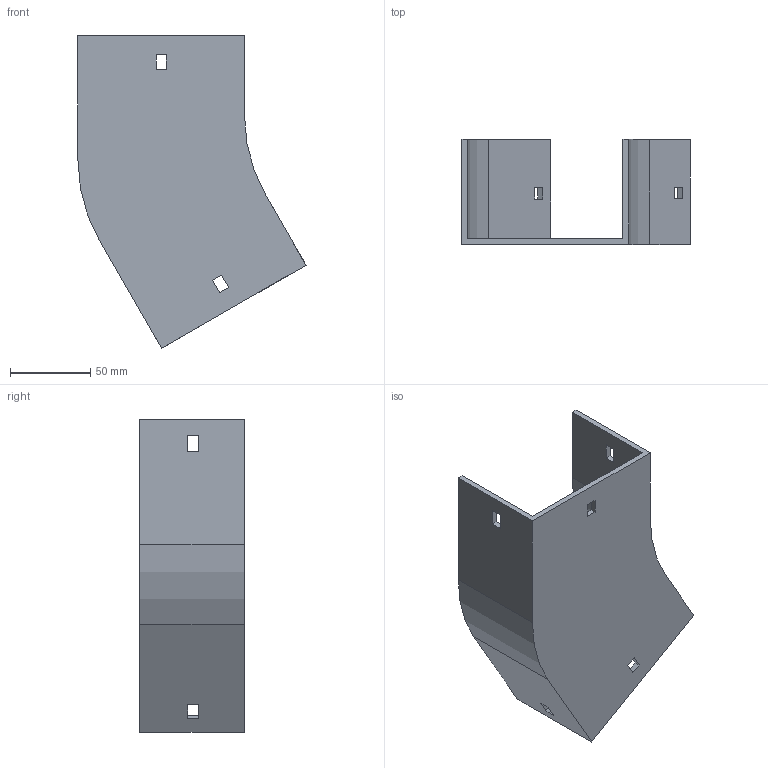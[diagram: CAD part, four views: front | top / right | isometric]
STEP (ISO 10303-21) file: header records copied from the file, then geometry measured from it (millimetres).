
FILE_DESCRIPTION (( 'STEP AP214' ), '1' );
FILE_NAME ('12B1H100.step', '2025-02-21T09:34:55', ( '' ), ( '' ), 'SwSTEP 2.0', 'SolidWorks 2023', '' );
FILE_SCHEMA (( 'AUTOMOTIVE_DESIGN' ));
Length unit declared in the file: millimetre
Products named in the file (1): 12B1H100
Bounding box: 142.4 x 65.5 x 195.3 mm (x, y, z)
Volume: 142879 mm3; surface area: 85195.7 mm2
Topology: 1 solids, 1 shells, 42 faces, 120 edges, 80 vertices
Faces by surface type: plane 38, cylinder 4
Entity records: 1399 total; most frequent: CARTESIAN_POINT 243, ORIENTED_EDGE 240, DIRECTION 214, EDGE_CURVE 120, VECTOR 112, LINE 112, VERTEX_POINT 80, EDGE_LOOP 54
